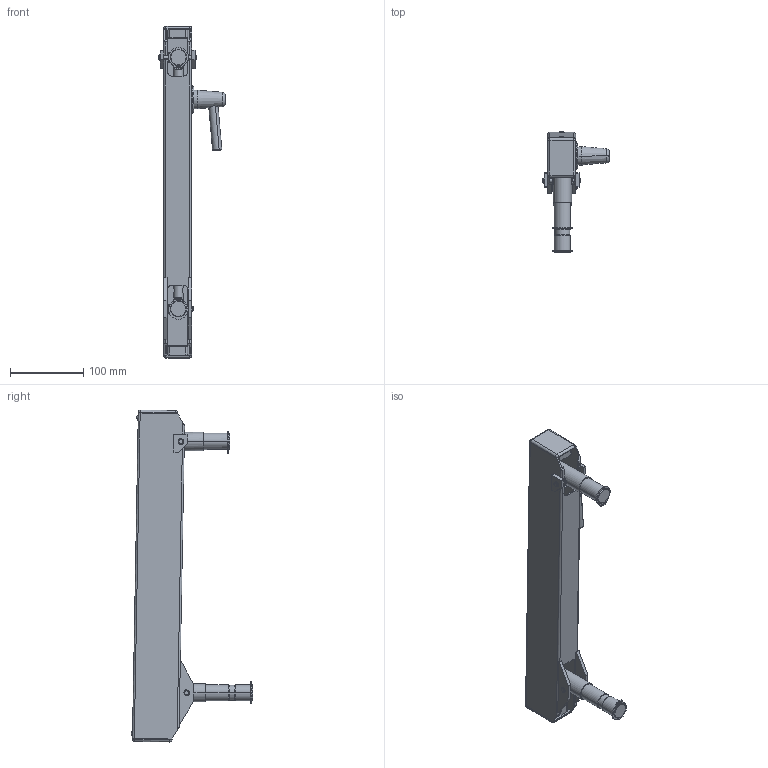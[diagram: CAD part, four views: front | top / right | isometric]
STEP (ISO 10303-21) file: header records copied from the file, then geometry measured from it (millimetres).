
FILE_DESCRIPTION (( 'STEP AP203' ), '1' );
FILE_NAME ('70-1321-00 REV 1, FLEX SECTION, 13.5in, 4-21 LB.STEP', '2017-01-23T22:14:20', ( '' ), ( '' ), 'SwSTEP 2.0', 'SolidWorks 2012', '' );
FILE_SCHEMA (( 'CONFIG_CONTROL_DESIGN' ));
Length unit declared in the file: inch
Products named in the file (21): 11-0027-00 REV 1, PLASTIC DISC, BRAKE ASSEMBLY_MACHINE; 11-0601-99 REV G, CONICAL KNOB, BRAKE ASSEMBLY; 11-0602-00 REV C, HANDLE, BRAKE ASSEMBLY; 71-0028-00 REV 1, TAB, MOUNT_MACHINE; 71-0071-00 REV 1, AXLE PIN, LONG; 71-1301-00 REV 2, FLEX HOUSING, 13.5in, BLACK; 71-0070-00 REV 1, AXLE PIN, SHORT; 71-1300-00 REV 1, HOUSING, 13.5in FLEX; 71-0030-00 REV 1, KNUCKLE, LOAD_MACHINE; 71-0029-00 REV 1, TAB, LOAD; 71-1032-00 REV 2, SPRING ROD, 13.5in FLEX; 71-0031-00 REV 1, KNUCKLE, MOUNT_MACHINE; 005-083-00; 006-004-00_006-004-00; 71-0972-99 REV 1, END CAP, FLEX; 010-012-00, RETAINING RING, EXTERNAL, .875in SHAFT; 002-041-00_002-041-00; 010-011-00_010-011-00; 011-020-00_011-020-00; 004-050-00; 70-1321-00 REV 1, FLEX SECTION, 13.5in, 4-21 LB
Assembly tree (33 placements, depth 3):
  70-1321-00 REV 1, FLEX SECTION, 13.5in, 4-21 LB
    71-0031-00 REV 1, KNUCKLE, MOUNT_MACHINE
    71-1032-00 REV 2, SPRING ROD, 13.5in FLEX
    71-0030-00 REV 1, KNUCKLE, LOAD_MACHINE
    71-1301-00 REV 2, FLEX HOUSING, 13.5in, BLACK
      71-1300-00 REV 1, HOUSING, 13.5in FLEX
      71-0029-00 REV 1, TAB, LOAD  x2
      71-0028-00 REV 1, TAB, MOUNT_MACHINE  x2
    71-0070-00 REV 1, AXLE PIN, SHORT
    71-0071-00 REV 1, AXLE PIN, LONG
    11-0027-00 REV 1, PLASTIC DISC, BRAKE ASSEMBLY_MACHINE
    11-0601-99 REV G, CONICAL KNOB, BRAKE ASSEMBLY
    11-0602-00 REV C, HANDLE, BRAKE ASSEMBLY
    005-083-00
    71-0972-99 REV 1, END CAP, FLEX  x2
    006-004-00_006-004-00  x2
    002-041-00_002-041-00  x2
    010-012-00, RETAINING RING, EXTERNAL, .875in SHAFT  x2
    010-011-00_010-011-00  x4
    011-020-00_011-020-00  x2
    004-050-00  x4
Bounding box: 91.5 x 166.24 x 453.42 mm (x, y, z)
Volume: 366883.7 mm3; surface area: 245554.4 mm2
Topology: 32 solids, 32 shells, 813 faces, 1997 edges, 1236 vertices
Faces by surface type: cylinder 349, plane 256, cone 131, bspline 36, torus 21, sphere 20
Entity records: 24136 total; most frequent: CARTESIAN_POINT 8780, DIRECTION 2687, ORIENTED_EDGE 2672, EDGE_CURVE 1336, AXIS2_PLACEMENT_3D 1037, VERTEX_POINT 829, VECTOR 613, LINE 613
